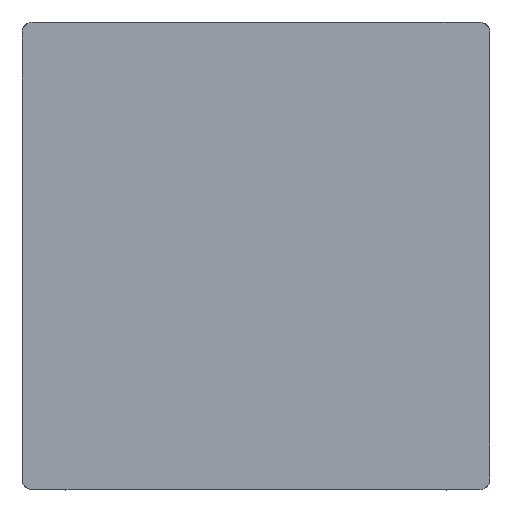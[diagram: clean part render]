
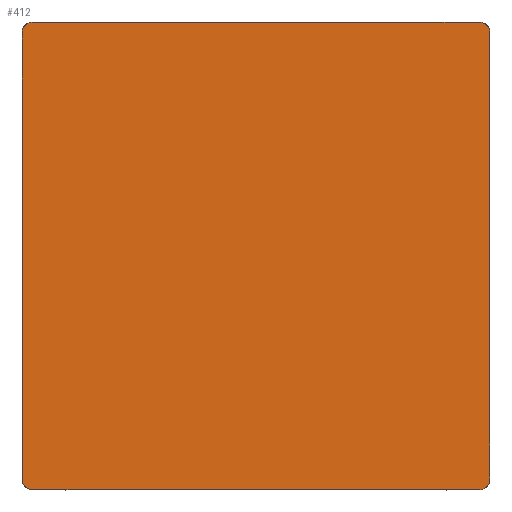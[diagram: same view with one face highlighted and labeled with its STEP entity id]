
A CAD part, top view. The second image highlights one B-rep face of the part: STEP entity #412.
In plain terms, the highlighted planar face has unit normal (0, 0, 1).
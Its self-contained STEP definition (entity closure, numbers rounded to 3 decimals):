
#412=ADVANCED_FACE($,(#636),#2899,.T.);
#636=FACE_OUTER_BOUND($,#878,.T.);
#878=EDGE_LOOP($,(#1370,#1371));
#1370=ORIENTED_EDGE($,*,*,#2213,.F.);
#1371=ORIENTED_EDGE($,*,*,#2210,.F.);
#2210=EDGE_CURVE($,#2655,#2657,#3064,.T.);
#2213=EDGE_CURVE($,#2657,#2655,#3067,.T.);
#2655=VERTEX_POINT($,#5825);
#2657=VERTEX_POINT($,#5827);
#2899=PLANE($,#3455);
#3064=B_SPLINE_CURVE_WITH_KNOTS($,3,(#5687,#5688,#5689,#5690,#5691,#5692,
#5693,#5694,#5695,#5696,#5697,#5698,#5699,#5700,#5701,#5702,#5703,#5704,
#5705),.UNSPECIFIED.,.F.,.F.,(4,1,1,1,3,3,1,1,1,3,4),(3856.655,3866.511,
3878.68,3890.914,3902.206,5142.206,5152.063,
5164.232,5176.466,5187.758,6427.758),.UNSPECIFIED.);
#3067=B_SPLINE_CURVE_WITH_KNOTS($,3,(#5727,#5728,#5729,#5730,#5731,#5732,
#5733,#5734,#5735,#5736,#5737,#5738,#5739,#5740,#5741,#5742,#5743,#5744,
#5745),.UNSPECIFIED.,.F.,.F.,(4,1,1,1,3,3,1,1,1,3,4),(6427.758,6437.614,
6449.783,6462.018,6473.31,7713.31,7723.166,
7735.335,7747.569,7758.861,8998.861),.UNSPECIFIED.);
#3455=AXIS2_PLACEMENT_3D($,#5785,#3556,$);
#3556=DIRECTION($,(0.,0.,1.));
#5687=CARTESIAN_POINT($,(30.,0.,404.));
#5688=CARTESIAN_POINT($,(26.601,0.,404.));
#5689=CARTESIAN_POINT($,(19.006,1.3,404.));
#5690=CARTESIAN_POINT($,(8.707,7.607,404.));
#5691=CARTESIAN_POINT($,(1.598,17.994,404.));
#5692=CARTESIAN_POINT($,(-0.001,26.106,404.));
#5693=CARTESIAN_POINT($,(0.,30.,404.));
#5694=CARTESIAN_POINT($,(0.,443.333,404.));
#5695=CARTESIAN_POINT($,(0.,856.667,404.));
#5696=CARTESIAN_POINT($,(0.,1270.,404.));
#5697=CARTESIAN_POINT($,(0.,1273.399,404.));
#5698=CARTESIAN_POINT($,(1.3,1280.994,404.));
#5699=CARTESIAN_POINT($,(7.607,1291.293,404.));
#5700=CARTESIAN_POINT($,(17.994,1298.402,404.));
#5701=CARTESIAN_POINT($,(26.106,1300.001,404.));
#5702=CARTESIAN_POINT($,(30.,1300.,404.));
#5703=CARTESIAN_POINT($,(443.333,1300.,404.));
#5704=CARTESIAN_POINT($,(856.667,1300.,404.));
#5705=CARTESIAN_POINT($,(1270.,1300.,404.));
#5727=CARTESIAN_POINT($,(1270.,1300.,404.));
#5728=CARTESIAN_POINT($,(1273.399,1300.,404.));
#5729=CARTESIAN_POINT($,(1280.994,1298.7,404.));
#5730=CARTESIAN_POINT($,(1291.293,1292.393,404.));
#5731=CARTESIAN_POINT($,(1298.402,1282.006,404.));
#5732=CARTESIAN_POINT($,(1300.001,1273.894,404.));
#5733=CARTESIAN_POINT($,(1300.,1270.,404.));
#5734=CARTESIAN_POINT($,(1300.,856.667,404.));
#5735=CARTESIAN_POINT($,(1300.,443.333,404.));
#5736=CARTESIAN_POINT($,(1300.,30.,404.));
#5737=CARTESIAN_POINT($,(1300.,26.601,404.));
#5738=CARTESIAN_POINT($,(1298.7,19.006,404.));
#5739=CARTESIAN_POINT($,(1292.393,8.707,404.));
#5740=CARTESIAN_POINT($,(1282.006,1.598,404.));
#5741=CARTESIAN_POINT($,(1273.894,-0.001,404.));
#5742=CARTESIAN_POINT($,(1270.,0.,404.));
#5743=CARTESIAN_POINT($,(856.667,0.,404.));
#5744=CARTESIAN_POINT($,(443.333,0.,404.));
#5745=CARTESIAN_POINT($,(30.,0.,404.));
#5785=CARTESIAN_POINT($,(-0.001,1300.001,404.));
#5825=CARTESIAN_POINT($,(30.,0.,404.));
#5827=CARTESIAN_POINT($,(1270.,1300.,404.));
